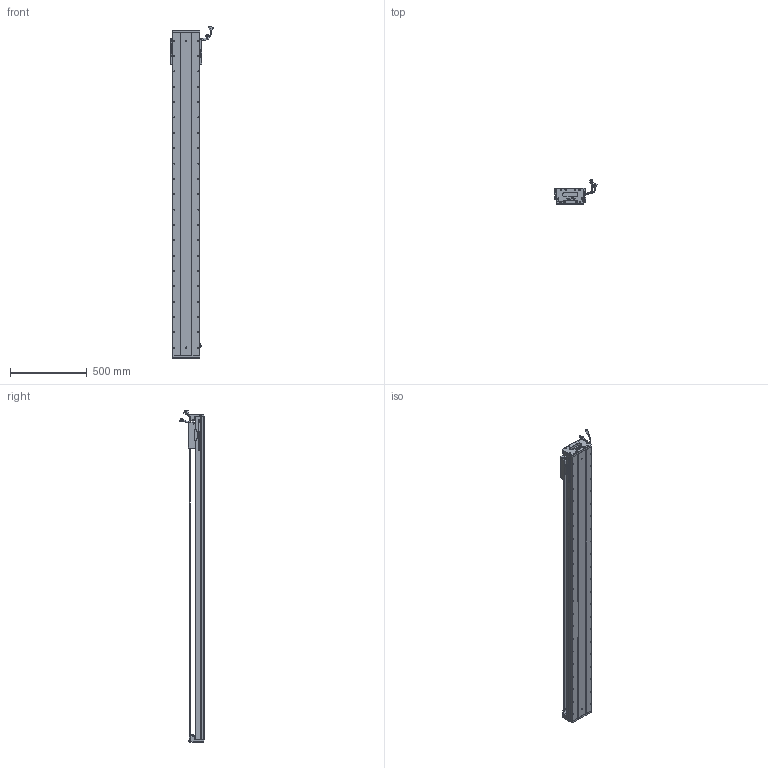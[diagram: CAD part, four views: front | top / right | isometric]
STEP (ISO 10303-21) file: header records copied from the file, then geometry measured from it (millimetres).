
FILE_DESCRIPTION (( 'STEP AP203' ), '1' );
FILE_NAME ('Z2-RY170D-1-L500-B-K.SLDASM_1850.step', '2021-05-17T09:09:13', ( '盈信电脑' ), ( '东莞市道滘镇水果街19号' ), 'SwSTEP 2.0', 'SolidWorks 2016', '' );
FILE_SCHEMA (( 'CONFIG_CONTROL_DESIGN' ));
Length unit declared in the file: millimetre
Products named in the file (36): SCREW-M1.6; SEAL; PBU_SHEET; 140雄赽晤鎢ん堤盄; SEAL-Part-1; Z2-RY170-L500詩湍145mm遵_1850; 080黍杅芛假蚾釱21遴; HARNESS; SHIELDPLATE; Z-170詩湍傷裔啣; HOLDER0; Z2-RY170-L500耀郪菁釱_1850; LABEL-Part-1; SCALE-Part-2; HARNESS-Part-1; 140蚥薯蝶輸; Z2-RY170D-1-L500-B-K.SLDASM_1850; 覜茼ん672; Z2-RY170臏賑輸(21遴); SCREW-M1.6-3; SCREW-M1.7; Z-RY170詩湍奻揤裔; HARNESS-Part-2; SCALE; SCREW-M1.6-1; COVER; Z-RY170詩湍狟揤裔; 170-Z-臏賑輸盄裔(21遴); SCREW-M1.6-2; SCREW-M1.7-1; 榋妏寠巭燃_暯_M2_2; COVER-Part-1; PSLH080_PSLF2; SCALE-Part-1; LABEL; RY170直线电机感应器672光电感应片
Assembly tree (41 placements, depth 4):
  Z2-RY170D-1-L500-B-K.SLDASM_1850
    Z2-RY170-L500耀郪菁釱_1850
    RY170直线电机感应器672光电感应片
    Z2-RY170臏賑輸(21遴)
    覜茼ん672  x3
    PSLH080_PSLF2
      SCALE
        SCALE-Part-1
        SCALE-Part-2
      HARNESS
        HARNESS-Part-1
        HARNESS-Part-2
      LABEL
        LABEL-Part-1
      COVER
        COVER-Part-1
      SEAL
        SEAL-Part-1
      榋妏寠巭燃_暯_M2_2
      SHIELDPLATE
      SCREW-M1.7
      SCREW-M1.7-1
      PBU_SHEET
      SCREW-M1.6
      SCREW-M1.6-1
      SCREW-M1.6-2
      SCREW-M1.6-3
      HOLDER0
    080黍杅芛假蚾釱21遴
    Z2-RY170-L500詩湍145mm遵_1850
    Z-170詩湍傷裔啣  x2
    Z-RY170詩湍奻揤裔  x2
    Z-RY170詩湍狟揤裔  x2
    140蚥薯蝶輸  x2
    170-Z-臏賑輸盄裔(21遴)
    140雄赽晤鎢ん堤盄
Bounding box: 275.34 x 158.11 x 2163.72 mm (x, y, z)
Volume: 10819668.4 mm3; surface area: 2674060.3 mm2
Topology: 36 solids, 36 shells, 3750 faces, 10315 edges, 6457 vertices
Faces by surface type: cylinder 1844, plane 1268, cone 516, torus 69, bspline 53
Entity records: 116247 total; most frequent: CARTESIAN_POINT 31908, ORIENTED_EDGE 17210, DIRECTION 16225, EDGE_CURVE 8605, AXIS2_PLACEMENT_3D 5968, VERTEX_POINT 5575, LINE 4289, VECTOR 4289
